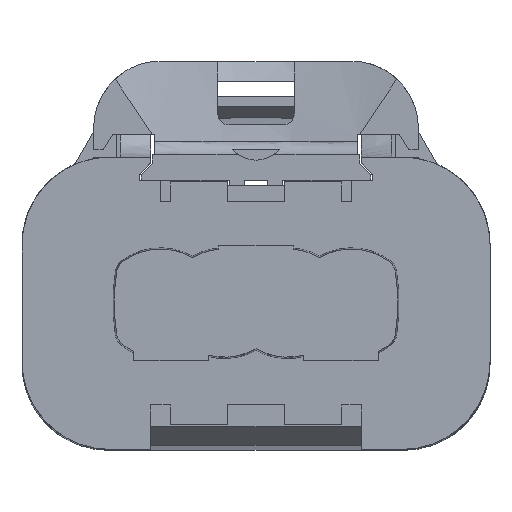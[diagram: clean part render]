
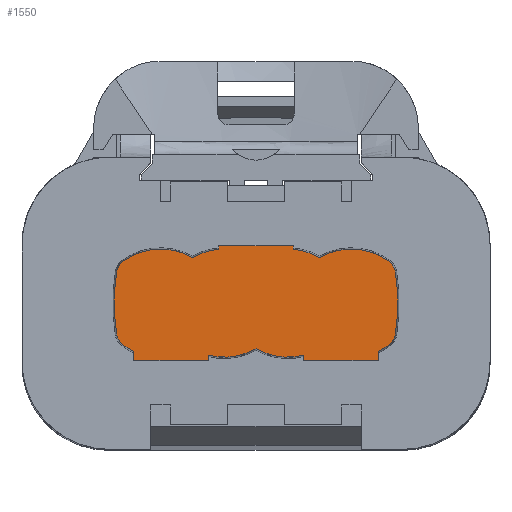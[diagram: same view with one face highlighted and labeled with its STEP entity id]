
A CAD part, top view. The second image highlights one B-rep face of the part: STEP entity #1550.
In plain terms, the highlighted planar face has unit normal (0, 0, 1).
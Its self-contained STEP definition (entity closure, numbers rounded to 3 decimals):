
#771=PLANE('',#16312);
#1550=ADVANCED_FACE('',(#2468),#771,.T.);
#2468=FACE_OUTER_BOUND('',#3252,.T.);
#3252=EDGE_LOOP('',(#7896,#7897,#7898,#7899,#7900,#7901,#7902,#7903,#7904,
#7905,#7906,#7907,#7908,#7909,#7910,#7911,#7912,#7913,#7914,#7915,#7916,
#7917,#7918));
#3767=CIRCLE('',#16271,3.33);
#3769=CIRCLE('',#16274,3.33);
#3771=CIRCLE('',#16277,0.93);
#3773=CIRCLE('',#16280,9.93);
#3775=CIRCLE('',#16283,0.93);
#3777=CIRCLE('',#16286,3.33);
#3778=CIRCLE('',#16288,3.33);
#3781=CIRCLE('',#16292,3.33);
#3783=CIRCLE('',#16295,3.33);
#3785=CIRCLE('',#16298,0.93);
#3787=CIRCLE('',#16301,9.93);
#3789=CIRCLE('',#16304,0.93);
#3791=CIRCLE('',#16307,3.33);
#3793=CIRCLE('',#16310,3.33);
#7896=ORIENTED_EDGE('',*,*,#11818,.T.);
#7897=ORIENTED_EDGE('',*,*,#11819,.T.);
#7898=ORIENTED_EDGE('',*,*,#11820,.T.);
#7899=ORIENTED_EDGE('',*,*,#11821,.T.);
#7900=ORIENTED_EDGE('',*,*,#11776,.T.);
#7901=ORIENTED_EDGE('',*,*,#11780,.T.);
#7902=ORIENTED_EDGE('',*,*,#11783,.T.);
#7903=ORIENTED_EDGE('',*,*,#11786,.T.);
#7904=ORIENTED_EDGE('',*,*,#11789,.T.);
#7905=ORIENTED_EDGE('',*,*,#11792,.T.);
#7906=ORIENTED_EDGE('',*,*,#11822,.T.);
#7907=ORIENTED_EDGE('',*,*,#11823,.F.);
#7908=ORIENTED_EDGE('',*,*,#11824,.T.);
#7909=ORIENTED_EDGE('',*,*,#11793,.T.);
#7910=ORIENTED_EDGE('',*,*,#11799,.T.);
#7911=ORIENTED_EDGE('',*,*,#11825,.T.);
#7912=ORIENTED_EDGE('',*,*,#11826,.T.);
#7913=ORIENTED_EDGE('',*,*,#11827,.T.);
#7914=ORIENTED_EDGE('',*,*,#11803,.T.);
#7915=ORIENTED_EDGE('',*,*,#11806,.T.);
#7916=ORIENTED_EDGE('',*,*,#11809,.T.);
#7917=ORIENTED_EDGE('',*,*,#11812,.T.);
#7918=ORIENTED_EDGE('',*,*,#11815,.T.);
#9621=VERTEX_POINT('',#27013);
#9622=VERTEX_POINT('',#27015);
#9624=VERTEX_POINT('',#27027);
#9626=VERTEX_POINT('',#27033);
#9628=VERTEX_POINT('',#27039);
#9630=VERTEX_POINT('',#27045);
#9632=VERTEX_POINT('',#27054);
#9633=VERTEX_POINT('',#27058);
#9634=VERTEX_POINT('',#27059);
#9638=VERTEX_POINT('',#27092);
#9640=VERTEX_POINT('',#27100);
#9642=VERTEX_POINT('',#27104);
#9644=VERTEX_POINT('',#27110);
#9646=VERTEX_POINT('',#27116);
#9648=VERTEX_POINT('',#27122);
#9650=VERTEX_POINT('',#27139);
#9652=VERTEX_POINT('',#27151);
#9653=VERTEX_POINT('',#27155);
#9654=VERTEX_POINT('',#27157);
#9655=VERTEX_POINT('',#27160);
#9656=VERTEX_POINT('',#27162);
#9657=VERTEX_POINT('',#27165);
#9658=VERTEX_POINT('',#27167);
#11776=EDGE_CURVE('',#9622,#9621,#3767,.T.);
#11780=EDGE_CURVE('',#9621,#9624,#3769,.T.);
#11783=EDGE_CURVE('',#9624,#9626,#3771,.T.);
#11786=EDGE_CURVE('',#9626,#9628,#3773,.T.);
#11789=EDGE_CURVE('',#9628,#9630,#3775,.T.);
#11792=EDGE_CURVE('',#9630,#9632,#3777,.T.);
#11793=EDGE_CURVE('',#9633,#9634,#3778,.T.);
#11799=EDGE_CURVE('',#9634,#9638,#3781,.T.);
#11803=EDGE_CURVE('',#9640,#9642,#3783,.T.);
#11806=EDGE_CURVE('',#9642,#9644,#3785,.T.);
#11809=EDGE_CURVE('',#9644,#9646,#3787,.T.);
#11812=EDGE_CURVE('',#9646,#9648,#3789,.T.);
#11815=EDGE_CURVE('',#9648,#9650,#3791,.T.);
#11818=EDGE_CURVE('',#9650,#9652,#3793,.T.);
#11819=EDGE_CURVE('',#9652,#9653,#13481,.T.);
#11820=EDGE_CURVE('',#9653,#9654,#13482,.T.);
#11821=EDGE_CURVE('',#9654,#9622,#13483,.T.);
#11822=EDGE_CURVE('',#9632,#9655,#13484,.T.);
#11823=EDGE_CURVE('',#9656,#9655,#13485,.T.);
#11824=EDGE_CURVE('',#9656,#9633,#13486,.T.);
#11825=EDGE_CURVE('',#9638,#9657,#13487,.T.);
#11826=EDGE_CURVE('',#9657,#9658,#13488,.T.);
#11827=EDGE_CURVE('',#9658,#9640,#13489,.T.);
#13481=LINE('',#27154,#15123);
#13482=LINE('',#27156,#15124);
#13483=LINE('',#27158,#15125);
#13484=LINE('',#27159,#15126);
#13485=LINE('',#27161,#15127);
#13486=LINE('',#27163,#15128);
#13487=LINE('',#27164,#15129);
#13488=LINE('',#27166,#15130);
#13489=LINE('',#27168,#15131);
#15123=VECTOR('',#20137,1.);
#15124=VECTOR('',#20138,1.);
#15125=VECTOR('',#20139,1.);
#15126=VECTOR('',#20140,1.);
#15127=VECTOR('',#20141,1.);
#15128=VECTOR('',#20142,1.);
#15129=VECTOR('',#20143,1.);
#15130=VECTOR('',#20144,1.);
#15131=VECTOR('',#20145,1.);
#16271=AXIS2_PLACEMENT_3D('',#27014,#20047,#20048);
#16274=AXIS2_PLACEMENT_3D('',#27028,#20054,#20055);
#16277=AXIS2_PLACEMENT_3D('',#27034,#20061,#20062);
#16280=AXIS2_PLACEMENT_3D('',#27040,#20068,#20069);
#16283=AXIS2_PLACEMENT_3D('',#27046,#20075,#20076);
#16286=AXIS2_PLACEMENT_3D('',#27055,#20081,#20082);
#16288=AXIS2_PLACEMENT_3D('',#27057,#20085,#20086);
#16292=AXIS2_PLACEMENT_3D('',#27093,#20093,#20094);
#16295=AXIS2_PLACEMENT_3D('',#27105,#20100,#20101);
#16298=AXIS2_PLACEMENT_3D('',#27111,#20107,#20108);
#16301=AXIS2_PLACEMENT_3D('',#27117,#20114,#20115);
#16304=AXIS2_PLACEMENT_3D('',#27123,#20121,#20122);
#16307=AXIS2_PLACEMENT_3D('',#27140,#20127,#20128);
#16310=AXIS2_PLACEMENT_3D('',#27152,#20133,#20134);
#16312=AXIS2_PLACEMENT_3D('',#27169,#20146,#20147);
#20047=DIRECTION('',(0.,0.,1.));
#20048=DIRECTION('',(0.,-1.,0.));
#20054=DIRECTION('',(0.,0.,1.));
#20055=DIRECTION('',(0.,-1.,0.));
#20061=DIRECTION('',(0.,0.,1.));
#20062=DIRECTION('',(0.,-1.,0.));
#20068=DIRECTION('',(0.,0.,1.));
#20069=DIRECTION('',(0.,-1.,0.));
#20075=DIRECTION('',(0.,0.,1.));
#20076=DIRECTION('',(0.,-1.,0.));
#20081=DIRECTION('',(0.,0.,1.));
#20082=DIRECTION('',(0.,-1.,0.));
#20085=DIRECTION('',(0.,0.,1.));
#20086=DIRECTION('',(0.,-1.,0.));
#20093=DIRECTION('',(0.,0.,1.));
#20094=DIRECTION('',(0.,-1.,0.));
#20100=DIRECTION('',(0.,0.,1.));
#20101=DIRECTION('',(0.,-1.,0.));
#20107=DIRECTION('',(0.,0.,1.));
#20108=DIRECTION('',(0.,-1.,0.));
#20114=DIRECTION('',(0.,0.,1.));
#20115=DIRECTION('',(0.,-1.,0.));
#20121=DIRECTION('',(0.,0.,1.));
#20122=DIRECTION('',(0.,-1.,0.));
#20127=DIRECTION('',(0.,0.,1.));
#20128=DIRECTION('',(0.,-1.,0.));
#20133=DIRECTION('',(0.,0.,1.));
#20134=DIRECTION('',(0.,-1.,0.));
#20137=DIRECTION('',(0.,1.,0.));
#20138=DIRECTION('',(-1.,0.,0.));
#20139=DIRECTION('',(0.,-1.,0.));
#20140=DIRECTION('',(0.,-1.,0.));
#20141=DIRECTION('',(-1.,0.,0.));
#20142=DIRECTION('',(0.,1.,0.));
#20143=DIRECTION('',(0.,-1.,0.));
#20144=DIRECTION('',(1.,0.,0.));
#20145=DIRECTION('',(0.,1.,0.));
#20146=DIRECTION('',(0.,0.,1.));
#20147=DIRECTION('',(-1.,0.,0.));
#27013=CARTESIAN_POINT('',(-3.33,2.384,29.35));
#27014=CARTESIAN_POINT('',(-1.665,-0.5,29.35));
#27015=CARTESIAN_POINT('',(-1.95,2.818,29.35));
#27027=CARTESIAN_POINT('',(-6.918,2.219,29.35));
#27028=CARTESIAN_POINT('',(-4.995,-0.5,29.35));
#27033=CARTESIAN_POINT('',(-7.299,1.61,29.35));
#27034=CARTESIAN_POINT('',(-6.381,1.459,29.35));
#27039=CARTESIAN_POINT('',(-7.299,-1.61,29.35));
#27040=CARTESIAN_POINT('',(2.5,0.,29.35));
#27045=CARTESIAN_POINT('',(-6.918,-2.219,29.35));
#27046=CARTESIAN_POINT('',(-6.381,-1.459,29.35));
#27054=CARTESIAN_POINT('',(-6.395,-2.522,29.35));
#27055=CARTESIAN_POINT('',(-4.995,0.5,29.35));
#27057=CARTESIAN_POINT('',(-1.665,0.5,29.35));
#27058=CARTESIAN_POINT('',(-2.497,-2.724,29.35));
#27059=CARTESIAN_POINT('',(0.,-2.384,29.35));
#27092=CARTESIAN_POINT('',(2.497,-2.724,29.35));
#27093=CARTESIAN_POINT('',(1.665,0.5,29.35));
#27100=CARTESIAN_POINT('',(6.395,-2.522,29.35));
#27104=CARTESIAN_POINT('',(6.918,-2.219,29.35));
#27105=CARTESIAN_POINT('',(4.995,0.5,29.35));
#27110=CARTESIAN_POINT('',(7.299,-1.61,29.35));
#27111=CARTESIAN_POINT('',(6.381,-1.459,29.35));
#27116=CARTESIAN_POINT('',(7.299,1.61,29.35));
#27117=CARTESIAN_POINT('',(-2.5,0.,29.35));
#27122=CARTESIAN_POINT('',(6.918,2.219,29.35));
#27123=CARTESIAN_POINT('',(6.381,1.459,29.35));
#27139=CARTESIAN_POINT('',(3.33,2.384,29.35));
#27140=CARTESIAN_POINT('',(4.995,-0.5,29.35));
#27151=CARTESIAN_POINT('',(1.95,2.818,29.35));
#27152=CARTESIAN_POINT('',(1.665,-0.5,29.35));
#27154=CARTESIAN_POINT('',(1.95,3.878,29.35));
#27155=CARTESIAN_POINT('',(1.95,3.,29.35));
#27156=CARTESIAN_POINT('',(8.841,3.,29.35));
#27157=CARTESIAN_POINT('',(-1.95,3.,29.35));
#27158=CARTESIAN_POINT('',(-1.95,3.878,29.35));
#27159=CARTESIAN_POINT('',(-6.395,3.878,29.35));
#27160=CARTESIAN_POINT('',(-6.395,-3.,29.35));
#27161=CARTESIAN_POINT('',(-6.545,-3.,29.35));
#27162=CARTESIAN_POINT('',(-2.497,-3.,29.35));
#27163=CARTESIAN_POINT('',(-2.497,3.878,29.35));
#27164=CARTESIAN_POINT('',(2.497,3.878,29.35));
#27165=CARTESIAN_POINT('',(2.497,-3.,29.35));
#27166=CARTESIAN_POINT('',(8.841,-3.,29.35));
#27167=CARTESIAN_POINT('',(6.395,-3.,29.35));
#27168=CARTESIAN_POINT('',(6.395,3.878,29.35));
#27169=CARTESIAN_POINT('',(8.841,3.878,29.35));
